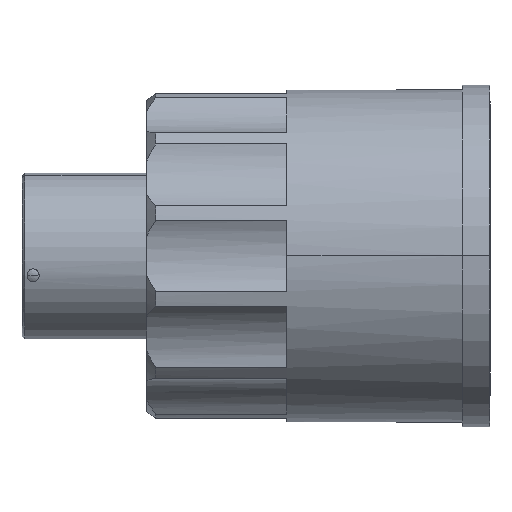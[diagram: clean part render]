
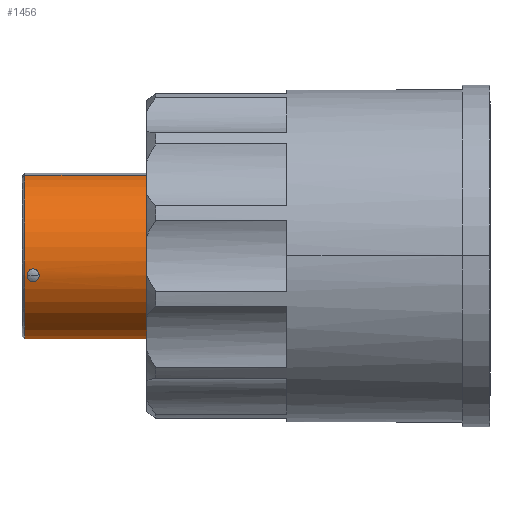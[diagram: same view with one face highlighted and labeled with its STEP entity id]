
A CAD part, top view. The second image highlights one B-rep face of the part: STEP entity #1456.
In plain terms, the highlighted cylindrical face has radius 9 mm (diameter 18 mm), a partial arc.
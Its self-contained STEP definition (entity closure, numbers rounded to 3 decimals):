
#166 = EDGE_LOOP ( 'NONE', ( #10506, #10577, #7567, #10588 ) ) ;
#422 = VERTEX_POINT ( 'NONE', #435 ) ;
#435 = CARTESIAN_POINT ( 'NONE',  ( -50.4, -8.749, -2.109 ) ) ;
#459 = VERTEX_POINT ( 'NONE', #8209 ) ;
#612 = AXIS2_PLACEMENT_3D ( 'NONE', #9596, #9813, #9535 ) ;
#1456 = ADVANCED_FACE ( 'NONE', ( #3947, #10185 ), #2849, .T. ) ;
#1626 = B_SPLINE_CURVE_WITH_KNOTS ( 'NONE', 3,
 ( #8648, #8505, #8494, #8493, #8470, #8468, #8454, #8453, #8440, #8434, #8432, #8425, #8423, #8412 ),
 .UNSPECIFIED., .F., .F.,
 ( 4, 2, 2, 2, 2, 2, 4 ),
 ( 0.002, 0.003, 0.003, 0.003, 0.003, 0.004, 0.004 ),
 .UNSPECIFIED. ) ;
#2260 = LINE ( 'NONE', #7114, #4395 ) ;
#2849 = CYLINDRICAL_SURFACE ( 'NONE', #612, 9. ) ;
#3094 = AXIS2_PLACEMENT_3D ( 'NONE', #7079, #7072, #7063 ) ;
#3111 = AXIS2_PLACEMENT_3D ( 'NONE', #7296, #7282, #7279 ) ;
#3133 = EDGE_CURVE ( 'NONE', #5583, #9650, #1626, .T. ) ;
#3481 = EDGE_CURVE ( 'NONE', #8626, #422, #7062, .T. ) ;
#3495 = EDGE_CURVE ( 'NONE', #9650, #5583, #9552, .T. ) ;
#3497 = EDGE_CURVE ( 'NONE', #422, #459, #9148, .T. ) ;
#3511 = EDGE_CURVE ( 'NONE', #459, #9013, #8899, .T. ) ;
#3527 = EDGE_CURVE ( 'NONE', #8626, #9013, #2260, .T. ) ;
#3947 = FACE_BOUND ( 'NONE', #6111, .T. ) ;
#4395 = VECTOR ( 'NONE', #7014, 1000. ) ;
#5583 = VERTEX_POINT ( 'NONE', #11019 ) ;
#6111 = EDGE_LOOP ( 'NONE', ( #10179, #10431 ) ) ;
#6827 = VECTOR ( 'NONE', #7115, 1000. ) ;
#7014 = DIRECTION ( 'NONE',  ( 1., 0., 0. ) ) ;
#7062 = CIRCLE ( 'NONE', #3111, 9. ) ;
#7063 = DIRECTION ( 'NONE',  ( 0., 0.972, 0.234 ) ) ;
#7072 = DIRECTION ( 'NONE',  ( -1., 0., 0. ) ) ;
#7079 = CARTESIAN_POINT ( 'NONE',  ( -35.9, 0., 0. ) ) ;
#7114 = CARTESIAN_POINT ( 'NONE',  ( -30.2, 8.749, 2.109 ) ) ;
#7115 = DIRECTION ( 'NONE',  ( 1., 0., 0. ) ) ;
#7135 = CARTESIAN_POINT ( 'NONE',  ( -30.2, -8.749, -2.109 ) ) ;
#7143 = CARTESIAN_POINT ( 'NONE',  ( -48.846, -2.109, 8.749 ) ) ;
#7144 = CARTESIAN_POINT ( 'NONE',  ( -48.846, -1.936, 8.791 ) ) ;
#7152 = CARTESIAN_POINT ( 'NONE',  ( -48.909, -1.76, 8.827 ) ) ;
#7164 = CARTESIAN_POINT ( 'NONE',  ( -49.088, -1.562, 8.864 ) ) ;
#7178 = CARTESIAN_POINT ( 'NONE',  ( -49.161, -1.507, 8.873 ) ) ;
#7181 = CARTESIAN_POINT ( 'NONE',  ( -49.323, -1.433, 8.885 ) ) ;
#7193 = CARTESIAN_POINT ( 'NONE',  ( -49.412, -1.413, 8.888 ) ) ;
#7200 = CARTESIAN_POINT ( 'NONE',  ( -49.59, -1.413, 8.888 ) ) ;
#7213 = CARTESIAN_POINT ( 'NONE',  ( -49.679, -1.434, 8.885 ) ) ;
#7216 = CARTESIAN_POINT ( 'NONE',  ( -49.841, -1.508, 8.873 ) ) ;
#7226 = CARTESIAN_POINT ( 'NONE',  ( -49.913, -1.563, 8.864 ) ) ;
#7234 = CARTESIAN_POINT ( 'NONE',  ( -50.09, -1.76, 8.827 ) ) ;
#7248 = CARTESIAN_POINT ( 'NONE',  ( -50.154, -1.934, 8.792 ) ) ;
#7260 = CARTESIAN_POINT ( 'NONE',  ( -50.154, -2.109, 8.749 ) ) ;
#7279 = DIRECTION ( 'NONE',  ( 0., 0.972, 0.234 ) ) ;
#7282 = DIRECTION ( 'NONE',  ( 1., 0., 0. ) ) ;
#7296 = CARTESIAN_POINT ( 'NONE',  ( -50.4, 0., 0. ) ) ;
#7567 = ORIENTED_EDGE ( 'NONE', *, *, #3511, .T. ) ;
#8209 = CARTESIAN_POINT ( 'NONE',  ( -35.9, -8.749, -2.109 ) ) ;
#8412 = CARTESIAN_POINT ( 'NONE',  ( -50.154, -2.109, 8.749 ) ) ;
#8423 = CARTESIAN_POINT ( 'NONE',  ( -50.154, -2.284, 8.707 ) ) ;
#8425 = CARTESIAN_POINT ( 'NONE',  ( -50.089, -2.456, 8.659 ) ) ;
#8432 = CARTESIAN_POINT ( 'NONE',  ( -49.912, -2.647, 8.602 ) ) ;
#8434 = CARTESIAN_POINT ( 'NONE',  ( -49.839, -2.7, 8.586 ) ) ;
#8440 = CARTESIAN_POINT ( 'NONE',  ( -49.676, -2.772, 8.562 ) ) ;
#8453 = CARTESIAN_POINT ( 'NONE',  ( -49.587, -2.791, 8.556 ) ) ;
#8454 = CARTESIAN_POINT ( 'NONE',  ( -49.409, -2.791, 8.556 ) ) ;
#8468 = CARTESIAN_POINT ( 'NONE',  ( -49.32, -2.771, 8.563 ) ) ;
#8470 = CARTESIAN_POINT ( 'NONE',  ( -49.159, -2.699, 8.586 ) ) ;
#8493 = CARTESIAN_POINT ( 'NONE',  ( -49.086, -2.646, 8.603 ) ) ;
#8494 = CARTESIAN_POINT ( 'NONE',  ( -48.91, -2.455, 8.66 ) ) ;
#8505 = CARTESIAN_POINT ( 'NONE',  ( -48.846, -2.282, 8.708 ) ) ;
#8626 = VERTEX_POINT ( 'NONE', #9399 ) ;
#8648 = CARTESIAN_POINT ( 'NONE',  ( -48.846, -2.109, 8.749 ) ) ;
#8899 = CIRCLE ( 'NONE', #3094, 9. ) ;
#9013 = VERTEX_POINT ( 'NONE', #9256 ) ;
#9092 = CARTESIAN_POINT ( 'NONE',  ( -50.154, -2.109, 8.749 ) ) ;
#9148 = LINE ( 'NONE', #7135, #6827 ) ;
#9256 = CARTESIAN_POINT ( 'NONE',  ( -35.9, 8.749, 2.109 ) ) ;
#9399 = CARTESIAN_POINT ( 'NONE',  ( -50.4, 8.749, 2.109 ) ) ;
#9535 = DIRECTION ( 'NONE',  ( 0., 0.972, 0.234 ) ) ;
#9552 = B_SPLINE_CURVE_WITH_KNOTS ( 'NONE', 3,
 ( #7260, #7248, #7234, #7226, #7216, #7213, #7200, #7193, #7181, #7178, #7164, #7152, #7144, #7143 ),
 .UNSPECIFIED., .F., .F.,
 ( 4, 2, 2, 2, 2, 2, 4 ),
 ( 0., 0.001, 0.001, 0.001, 0.001, 0.002, 0.002 ),
 .UNSPECIFIED. ) ;
#9596 = CARTESIAN_POINT ( 'NONE',  ( -30.2, 0., 0. ) ) ;
#9650 = VERTEX_POINT ( 'NONE', #9092 ) ;
#9813 = DIRECTION ( 'NONE',  ( 1., 0., 0. ) ) ;
#10179 = ORIENTED_EDGE ( 'NONE', *, *, #3495, .T. ) ;
#10185 = FACE_OUTER_BOUND ( 'NONE', #166, .T. ) ;
#10431 = ORIENTED_EDGE ( 'NONE', *, *, #3133, .T. ) ;
#10506 = ORIENTED_EDGE ( 'NONE', *, *, #3481, .T. ) ;
#10577 = ORIENTED_EDGE ( 'NONE', *, *, #3497, .T. ) ;
#10588 = ORIENTED_EDGE ( 'NONE', *, *, #3527, .F. ) ;
#11019 = CARTESIAN_POINT ( 'NONE',  ( -48.846, -2.109, 8.749 ) ) ;
